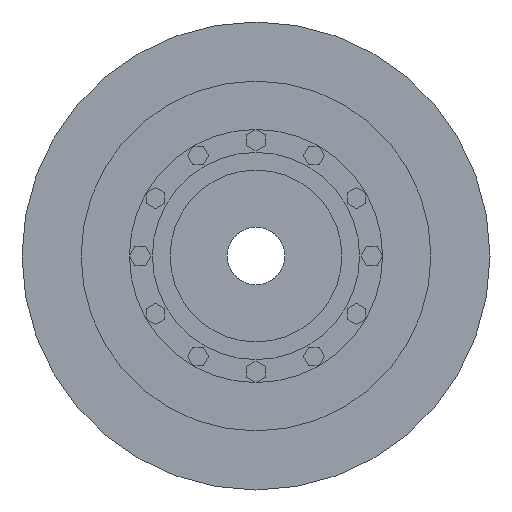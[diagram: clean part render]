
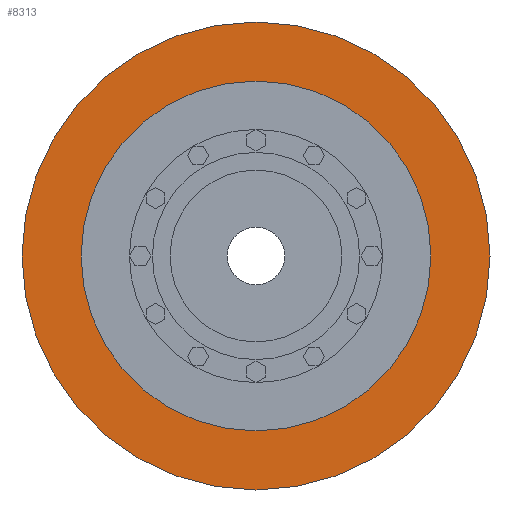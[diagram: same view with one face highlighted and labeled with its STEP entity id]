
A CAD part, left-side view. The second image highlights one B-rep face of the part: STEP entity #8313.
In plain terms, the highlighted planar face has unit normal (-1, 0, 0).
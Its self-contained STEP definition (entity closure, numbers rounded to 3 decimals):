
#8110=CARTESIAN_POINT('',(-46.,0.,0.));
#8111=DIRECTION('',(-1.,0.,0.));
#8112=DIRECTION('',(0.,1.,0.));
#8113=AXIS2_PLACEMENT_3D('',#8110,#8111,#8112);
#8115=CARTESIAN_POINT('',(-46.,0.,0.));
#8116=DIRECTION('',(1.,0.,0.));
#8117=DIRECTION('',(0.,1.,0.));
#8118=AXIS2_PLACEMENT_3D('',#8115,#8116,#8117);
#8120=CARTESIAN_POINT('',(-46.,0.,0.));
#8121=DIRECTION('',(1.,0.,0.));
#8122=DIRECTION('',(0.,1.,0.));
#8123=AXIS2_PLACEMENT_3D('',#8120,#8121,#8122);
#8133=CARTESIAN_POINT('',(-46.,0.,0.));
#8134=DIRECTION('',(-1.,0.,0.));
#8135=DIRECTION('',(0.,1.,0.));
#8136=AXIS2_PLACEMENT_3D('',#8133,#8134,#8135);
#8156=CARTESIAN_POINT('',(-46.,228.,0.));
#8158=VERTEX_POINT('',#8156);
#8168=CARTESIAN_POINT('',(-46.,-228.,0.));
#8170=VERTEX_POINT('',#8168);
#8173=CARTESIAN_POINT('',(-46.,305.,0.));
#8175=VERTEX_POINT('',#8173);
#8177=CARTESIAN_POINT('',(-46.,-305.,0.));
#8179=VERTEX_POINT('',#8177);
#8298=CARTESIAN_POINT('',(-46.,0.,0.));
#8299=DIRECTION('',(1.,0.,0.));
#8300=DIRECTION('',(0.,-1.,0.));
#8301=AXIS2_PLACEMENT_3D('',#8298,#8299,#8300);
#8302=PLANE('',#8301);
#8303=ORIENTED_EDGE('',*,*,#8291,.F.);
#8304=ORIENTED_EDGE('',*,*,#8280,.T.);
#8305=EDGE_LOOP('',(#8303,#8304));
#8306=FACE_OUTER_BOUND('',#8305,.F.);
#8308=ORIENTED_EDGE('',*,*,#8307,.F.);
#8310=ORIENTED_EDGE('',*,*,#8309,.T.);
#8311=EDGE_LOOP('',(#8308,#8310));
#8312=FACE_BOUND('',#8311,.F.);
#8313=ADVANCED_FACE('',(#8306,#8312),#8302,.F.);
#8114=CIRCLE('',#8113,305.);
#8119=CIRCLE('',#8118,305.);
#8124=CIRCLE('',#8123,228.);
#8137=CIRCLE('',#8136,228.);
#8280=EDGE_CURVE('',#8175,#8179,#8119,.T.);
#8291=EDGE_CURVE('',#8175,#8179,#8114,.T.);
#8307=EDGE_CURVE('',#8158,#8170,#8124,.T.);
#8309=EDGE_CURVE('',#8158,#8170,#8137,.T.);
